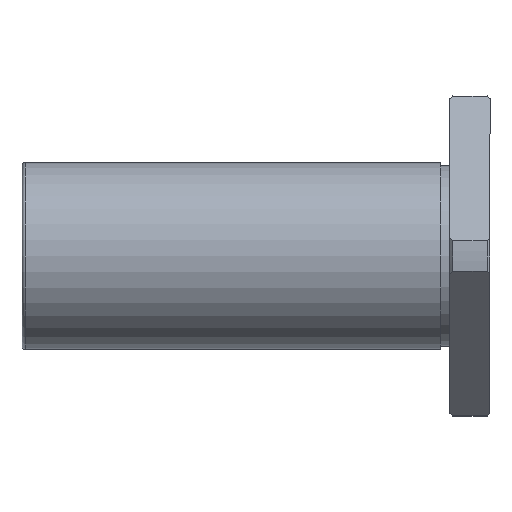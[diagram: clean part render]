
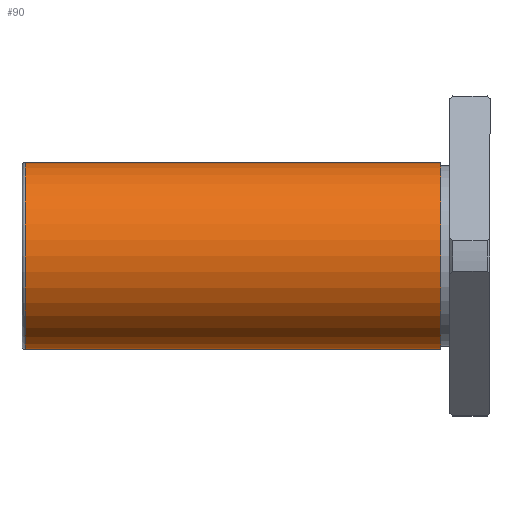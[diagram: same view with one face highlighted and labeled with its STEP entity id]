
A CAD part, front view. The second image highlights one B-rep face of the part: STEP entity #90.
In plain terms, the highlighted cylindrical face has radius 14 mm (diameter 28 mm), a full revolution.
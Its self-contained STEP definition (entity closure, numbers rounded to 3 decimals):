
#90=ADVANCED_FACE('',(#154,#155),#156,.T.);
#154=FACE_OUTER_BOUND('',#254,.T.);
#155=FACE_OUTER_BOUND('',#255,.T.);
#156=CYLINDRICAL_SURFACE('',#256,14.0);
#254=EDGE_LOOP('',(#424));
#255=EDGE_LOOP('',(#425));
#256=AXIS2_PLACEMENT_3D('',#426,#427,#428);
#424=ORIENTED_EDGE('',*,*,#616,.T.);
#425=ORIENTED_EDGE('',*,*,#615,.F.);
#426=CARTESIAN_POINT('',(-21.95,0.0,0.));
#427=DIRECTION('',(-1.0,-0.0,0.));
#428=DIRECTION('',(0.0,1.0,0.0));
#615=EDGE_CURVE('',#731,#731,#732,.T.);
#616=EDGE_CURVE('',#733,#733,#734,.T.);
#731=VERTEX_POINT('',#911);
#732=CIRCLE('',#912,14.0);
#733=VERTEX_POINT('',#913);
#734=CIRCLE('',#914,14.0);
#911=CARTESIAN_POINT('',(-69.5,14.0,0.));
#912=AXIS2_PLACEMENT_3D('',#1039,#1040,#1041);
#913=CARTESIAN_POINT('',(-7.4,14.0,0.0));
#914=AXIS2_PLACEMENT_3D('',#1042,#1043,#1044);
#1039=CARTESIAN_POINT('',(-69.5,0.,0.));
#1040=DIRECTION('',(-1.0,0.0,0.));
#1041=DIRECTION('',(0.0,1.0,0.0));
#1042=CARTESIAN_POINT('',(-7.4,0.0,0.0));
#1043=DIRECTION('',(-1.0,0.0,0.));
#1044=DIRECTION('',(0.0,1.0,0.0));
